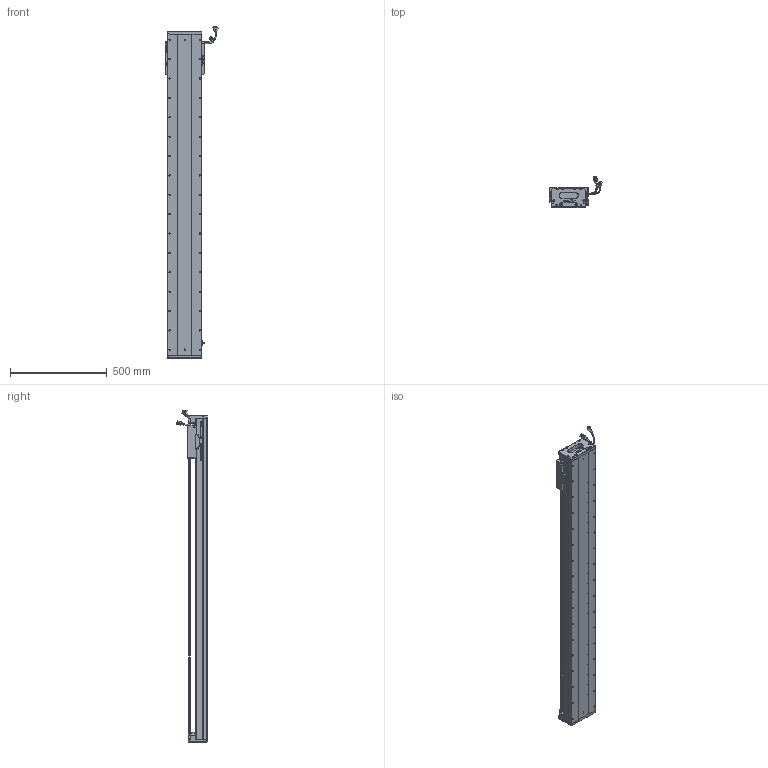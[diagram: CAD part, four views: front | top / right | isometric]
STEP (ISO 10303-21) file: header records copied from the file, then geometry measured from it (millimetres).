
FILE_DESCRIPTION (( 'STEP AP203' ), '1' );
FILE_NAME ('Z2-RY170D-1-L500-B-K.SLDASM_1400.step', '2021-05-17T09:08:10', ( '盈信电脑' ), ( '东莞市道滘镇水果街19号' ), 'SwSTEP 2.0', 'SolidWorks 2016', '' );
FILE_SCHEMA (( 'CONFIG_CONTROL_DESIGN' ));
Length unit declared in the file: millimetre
Products named in the file (36): COVER; HARNESS; SCALE; 140蚥薯蝶輸; LABEL; SHIELDPLATE; SCREW-M1.6-1; Z2-RY170-L500詩湍145mm遵_1400; PBU_SHEET; Z-RY170詩湍狟揤裔; LABEL-Part-1; RY170直线电机感应器672光电感应片; SCALE-Part-1; HOLDER0; SEAL; 覜茼ん672; SEAL-Part-1; SCREW-M1.7-1; SCREW-M1.7; 080黍杅芛假蚾釱21遴; Z2-RY170-L500耀郪菁釱_1400; SCALE-Part-2; COVER-Part-1; PSLH080_PSLF2; Z2-RY170臏賑輸(21遴); HARNESS-Part-2; SCREW-M1.6; Z-RY170詩湍奻揤裔; Z2-RY170D-1-L500-B-K.SLDASM_1400; SCREW-M1.6-3; 170-Z-臏賑輸盄裔(21遴); 榋妏寠巭燃_暯_M2_2; HARNESS-Part-1; SCREW-M1.6-2; 140雄赽晤鎢ん堤盄; Z-170詩湍傷裔啣
Assembly tree (41 placements, depth 4):
  Z2-RY170D-1-L500-B-K.SLDASM_1400
    Z2-RY170-L500耀郪菁釱_1400
    RY170直线电机感应器672光电感应片
    Z2-RY170臏賑輸(21遴)
    覜茼ん672  x3
    PSLH080_PSLF2
      SCALE
        SCALE-Part-1
        SCALE-Part-2
      HARNESS
        HARNESS-Part-1
        HARNESS-Part-2
      LABEL
        LABEL-Part-1
      COVER
        COVER-Part-1
      SEAL
        SEAL-Part-1
      榋妏寠巭燃_暯_M2_2
      SHIELDPLATE
      SCREW-M1.7
      SCREW-M1.7-1
      PBU_SHEET
      SCREW-M1.6
      SCREW-M1.6-1
      SCREW-M1.6-2
      SCREW-M1.6-3
      HOLDER0
    080黍杅芛假蚾釱21遴
    Z2-RY170-L500詩湍145mm遵_1400
    Z-170詩湍傷裔啣  x2
    Z-RY170詩湍奻揤裔  x2
    Z-RY170詩湍狟揤裔  x2
    140蚥薯蝶輸  x2
    170-Z-臏賑輸盄裔(21遴)
    140雄赽晤鎢ん堤盄
Bounding box: 275.33 x 158.11 x 1713.72 mm (x, y, z)
Volume: 8847750.7 mm3; surface area: 2178566.4 mm2
Topology: 36 solids, 36 shells, 3466 faces, 9449 edges, 5927 vertices
Faces by surface type: cylinder 1660, plane 1228, cone 456, torus 69, bspline 53
Entity records: 105517 total; most frequent: CARTESIAN_POINT 28308, ORIENTED_EDGE 15590, DIRECTION 14899, EDGE_CURVE 7795, AXIS2_PLACEMENT_3D 5468, VERTEX_POINT 5045, LINE 3963, VECTOR 3963
